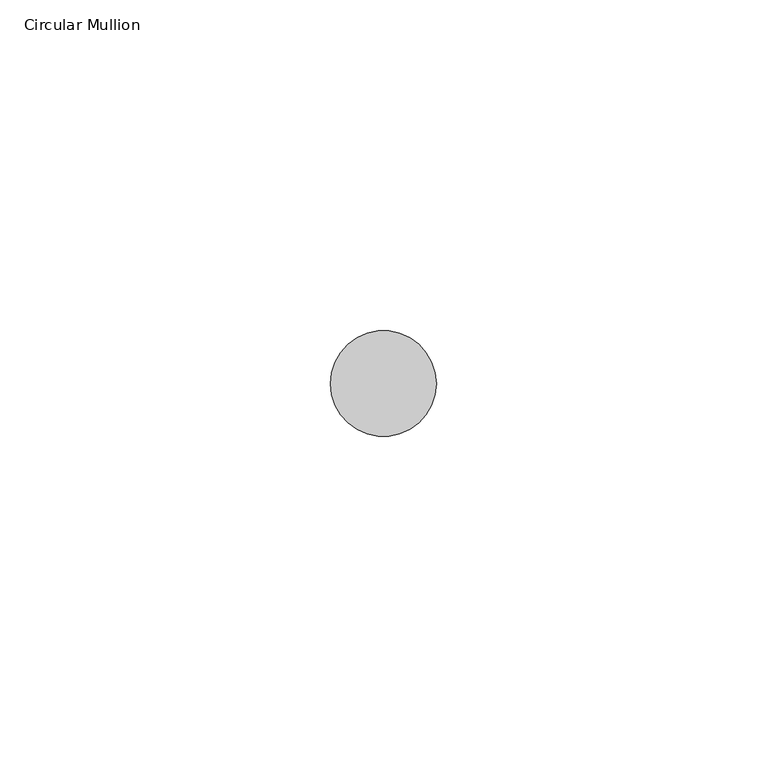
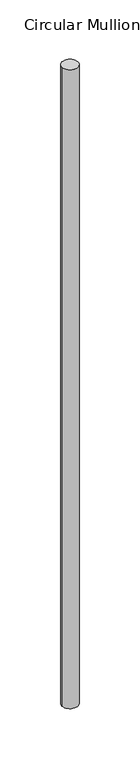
"""IFC4 building model written with IfcOpenShell, lengths in millimetres: member geometry, Circular Mullion : ARQ_HERR_16mm."""

from ifc_helpers import new_model, si_unit, point, frame, origin, origin_2d, place, context, project, spatial, circle_curve, trimmed, segment, composite_curve, outline, extrude, source, transform, mapped, element, save


def circular_mullion_b40c2762(model_context):
    return source(origin(), model_context, "Body", "SweptSolid", [
        extrude(outline(composite_curve([segment(trimmed(circle_curve(origin_2d(), 8.0), [point((8.0, 0.0))], [point((-8.0, 0.0))], False, "CARTESIAN"), True, "CONTINUOUS"), segment(trimmed(circle_curve(origin_2d(), 8.0), [point((-8.0, 0.0))], [point((8.0, 0.0))], False, "CARTESIAN"), True, "CONTINUOUS")], self_intersect=False)), frame((0.0, 0.0, -679.376007), z_axis=(0.0, 0.0, 1.0), x_axis=(1.0, 0.0, 0.0)), (0.0, 0.0, 1.0), 679.376007),
    ])


if __name__ == "__main__":
    model = new_model("IFC4")
    model_context = context("Model", 3, world=origin())
    ifc_project = project(units=[si_unit("LENGTHUNIT", "METRE", prefix="MILLI")], contexts=[model_context])
    site = spatial("IfcSite", under=ifc_project)
    building = spatial("IfcBuilding", under=site)
    placement = place(None, origin())
    circular_mullion_shape = circular_mullion_b40c2762(model_context)
    element("IfcMember", 1, ObjectType="Circular Mullion : ARQ_HERR_16mm", at=placement, inside=building, context=model_context, shape_type="MappedRepresentation", body=[
        mapped(circular_mullion_shape, transform((0.0, 0.0, 0.0), x_axis=(1.0, 0.0, 0.0), y_axis=(0.0, 1.0, 0.0), z_axis=(0.0, 0.0, 1.0))),
    ])
    save(model, "model.ifc")
